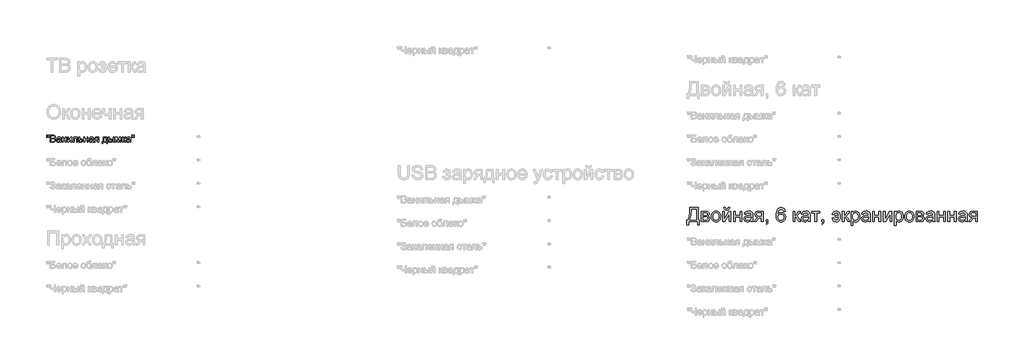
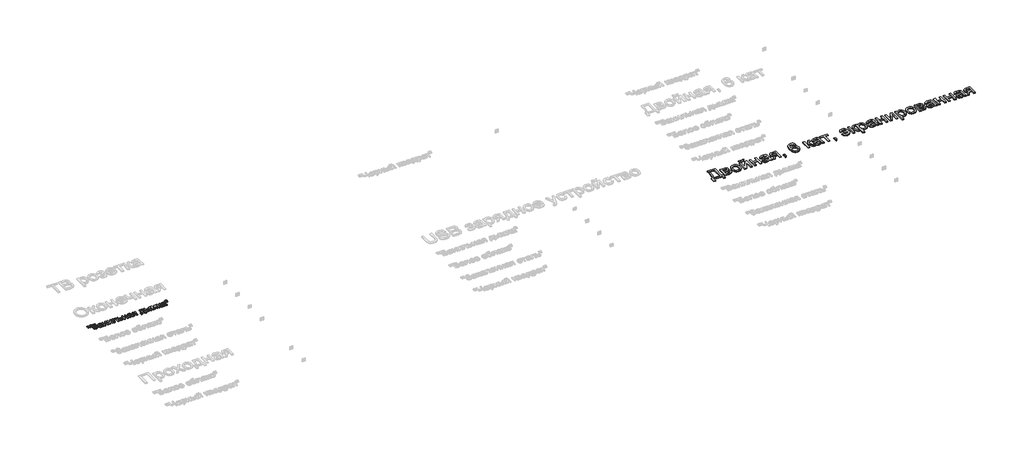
# One storey, part 148 of 168: 2 proxies.
"""IFC4 building model written with IfcOpenShell, lengths in millimetres."""

from ifc_helpers import new_model, si_unit, origin, origin_with_axes, place, context, project, spatial, polyline, outline, extrude, element, save

model = new_model("IFC4")

# Units and contexts
model_context = context("Model", 3, world=origin())
ifc_project = project(units=[si_unit("LENGTHUNIT", "METRE", prefix="MILLI")], contexts=[model_context])

# Site, building, storey
site = spatial("IfcSite", under=ifc_project)
building = spatial("IfcBuilding", under=site)
storey = spatial("IfcBuildingStorey", under=building, Name="Этаж 01", Elevation=0.0)

# Proxies
placement = place(None, origin())
element("IfcBuildingElementProxy", 1, Name="300 мм Arial 2", ObjectType="300 мм Arial 2", at=placement, inside=storey, context=model_context, shape_type="SweptSolid", body=[
    extrude(outline(polyline([(77327.3478389, -16547.0367511), (77506.2856413, -16547.0367511), (77506.2856413, -16810.7345653), (77534.5389786, -16810.7345653), (77534.5389786, -16919.0390246), (77496.8678623, -16919.0390246), (77496.8678623, -16848.4056816), (77303.8033912, -16848.4056816), (77303.8033912, -16919.0390246), (77266.1322749, -16919.0390246), (77266.1322749, -16810.7345653), (77289.6767226, -16810.7345653), (77306.157836, -16776.5629264), (77317.9300598, -16728.4945452), (77324.9933941, -16666.5294217), (77327.3478389, -16590.6675557), (77327.3478389, -16547.0367511)]), holes=[polyline([(77468.614525, -16584.7078674), (77365.0189552, -16584.7078674), (77365.0189552, -16599.8646056), (77357.3670097, -16703.0922935), (77346.0362442, -16762.744359), (77327.3478389, -16810.7345653), (77468.614525, -16810.7345653), (77468.614525, -16584.7078674)])]), origin_with_axes(), (0.0, 0.0, 1.0), 20.0),
    extrude(outline(polyline([(77576.9189844, -16627.0878733), (77659.9131625, -16627.0878733), (77686.5938042, -16628.3478691), (77705.4201653, -16632.1278566), (77719.2709224, -16639.2647673), (77731.0247522, -16650.5955328), (77739.0537767, -16665.3567978), (77741.7301183, -16682.7852073), (77740.1114375, -16696.8291025), (77735.2553951, -16708.9416172), (77727.1435971, -16719.1779337), (77715.7576494, -16727.5932344), (77729.700377, -16735.4199238), (77741.0679307, -16748.0106851), (77748.6279057, -16764.3722368), (77751.1478973, -16783.5112976), (77744.7651447, -16812.2244873), (77729.5900124, -16832.439603), (77705.5673181, -16844.4141619), (77672.6418796, -16848.4056816), (77576.9189844, -16848.4056816), (77576.9189844, -16627.0878733)]), holes=[polyline([(77614.5901007, -16711.847885), (77651.8197586, -16711.847885), (77682.5379052, -16709.9348986), (77697.4739142, -16702.2829531), (77702.41273, -16695.9553828), (77704.0590019, -16688.4505901), (77701.1711283, -16677.2117951), (77692.5075073, -16669.9829139), (77676.8541284, -16666.0649707), (77652.996981, -16664.7589896), (77614.5901007, -16664.7589896), (77614.5901007, -16711.847885)]), polyline([(77614.5901007, -16810.7345653), (77660.7960793, -16810.7345653), (77685.9776019, -16809.033111), (77701.7781336, -16803.9287484), (77710.2578136, -16794.648925), (77713.476781, -16780.4210889), (77711.8672973, -16770.9941127), (77707.0388461, -16762.2845065), (77699.6260239, -16755.4694925), (77690.2634271, -16751.7262932), (77657.1172594, -16749.5190013), (77614.5901007, -16749.5190013), (77614.5901007, -16810.7345653)])]), origin_with_axes(), (0.0, 0.0, 1.0), 20.0),
    extrude(outline(polyline([(77788.8190136, -16737.7467774), (77790.8561602, -16709.0841715), (77796.9675998, -16684.385494), (77807.1533326, -16663.6507451), (77821.4133584, -16646.8799246), (77835.7699533, -16636.160763), (77851.6164702, -16628.504219), (77868.9529092, -16623.9102925), (77887.7792703, -16622.3789837), (77908.5623038, -16624.2436856), (77927.354176, -16629.8377912), (77944.1548868, -16639.1613005), (77958.9644364, -16652.2142135), (77971.0516592, -16668.5550719), (77979.6853898, -16687.7424172), (77984.8656281, -16709.7762495), (77986.5923742, -16734.6565687), (77983.5389537, -16772.7139611), (77974.378692, -16801.6846682), (77959.3783037, -16823.3805088), (77938.8045031, -16839.6133019), (77914.3679415, -16849.7392538), (77887.7792703, -16853.1145711), (77866.6927342, -16851.256767), (77847.7261181, -16845.6833548), (77830.879422, -16836.3943344), (77816.1526459, -16823.3897059), (77804.1941818, -16806.8901984), (77795.6524217, -16787.1165412), (77790.5273657, -16764.0687342), (77788.8190136, -16737.7467774)]), holes=[polyline([(77826.4901299, -16737.673201), (77830.8495316, -16771.7666649), (77843.9277365, -16796.0560737), (77863.6094233, -16810.5966095), (77887.7792703, -16815.4434548), (77911.8387528, -16810.5690184), (77931.4836514, -16795.9457091), (77944.5618563, -16771.3344036), (77948.9212579, -16736.4959786), (77944.5342651, -16703.3957961), (77931.3732868, -16679.4374812), (77911.7007971, -16664.8969453), (77887.7792703, -16660.0501), (77863.6094233, -16664.8785512), (77843.9277365, -16679.3639048), (77830.8495316, -16703.5981312), (77826.4901299, -16737.673201)])]), origin_with_axes(), (0.0, 0.0, 1.0), 20.0),
    extrude(outline(polyline([(78028.9723801, -16627.0878733), (78066.6434964, -16627.0878733), (78066.6434964, -16795.8721327), (78159.2026064, -16627.0878733), (78207.9101825, -16627.0878733), (78207.9101825, -16848.4056816), (78170.2390662, -16848.4056816), (78170.2390662, -16680.6514918), (78078.2685674, -16848.4056816), (78028.9723801, -16848.4056816), (78028.9723801, -16627.0878733)])), origin_with_axes(), (0.0, 0.0, 1.0), 20.0),
    extrude(outline(polyline([(78151.4035081, -16547.0367511), (78179.6568453, -16547.0367511), (78173.5775953, -16571.160613), (78161.3731102, -16588.9385104), (78143.5952127, -16599.8921968), (78120.7957261, -16603.5434256), (78096.0556619, -16599.9197879), (78076.8706159, -16589.048875), (78063.7556227, -16571.2985687), (78057.2257173, -16547.0367511), (78085.4790545, -16547.0367511), (78089.4521801, -16559.4435714), (78096.074056, -16568.2635422), (78105.3814705, -16573.5334518), (78117.4112117, -16575.2900883), (78130.9860574, -16573.5886341), (78140.8085066, -16568.4842714), (78147.4303825, -16559.7194829), (78151.4035081, -16547.0367511)])), origin_with_axes(), (0.0, 0.0, 1.0), 20.0),
    extrude(outline(polyline([(78264.416857, -16627.0878733), (78302.0879733, -16627.0878733), (78302.0879733, -16711.847885), (78400.9746536, -16711.847885), (78400.9746536, -16627.0878733), (78438.6457699, -16627.0878733), (78438.6457699, -16848.4056816), (78400.9746536, -16848.4056816), (78400.9746536, -16749.5190013), (78302.0879733, -16749.5190013), (78302.0879733, -16848.4056816), (78264.416857, -16848.4056816), (78264.416857, -16627.0878733)])), origin_with_axes(), (0.0, 0.0, 1.0), 20.0),
    extrude(outline(polyline([(78636.4191305, -16820.1523443), (78618.4205039, -16835.584994), (78599.8884484, -16845.6833548), (78580.3998997, -16851.256767), (78559.5317935, -16853.1145711), (78528.0502918, -16848.6448049), (78504.8277408, -16835.2355061), (78490.5079342, -16814.8732377), (78485.7346653, -16789.5445623), (78487.5372871, -16773.9279716), (78492.9451524, -16759.7461207), (78501.2868766, -16747.6060149), (78511.8910752, -16738.1146594), (78538.2682142, -16725.7538244), (78570.862559, -16720.0884417), (78609.3798039, -16714.1287533), (78636.1984013, -16707.1389954), (78636.4191305, -16698.7512859), (78633.8255625, -16681.9390788), (78626.0448583, -16670.9394071), (78608.6440399, -16662.7724268), (78584.4006164, -16660.0501), (78561.9598147, -16661.8619189), (78546.2880417, -16667.2973753), (78535.6010697, -16677.3497509), (78528.1146711, -16693.0123268), (78490.4435548, -16688.3034373), (78496.9826573, -16667.7020455), (78506.7407272, -16651.5152378), (78520.6282725, -16639.1360086), (78539.5558012, -16629.9573528), (78562.7047757, -16624.273576), (78589.2566587, -16622.3789837), (78614.7232899, -16624.0528468), (78634.9108143, -16629.074436), (78650.1319319, -16636.625214), (78660.6993422, -16645.8866432), (78667.7074942, -16657.3369703), (78672.2508369, -16671.4544419), (78674.0902468, -16704.4166687), (78674.0902468, -16751.2848348), (78676.0032332, -16816.7310418), (78683.5080259, -16848.4056816), (78645.8369096, -16848.4056816), (78636.4191305, -16820.1523443)]), holes=[polyline([(78636.4191305, -16744.8101117), (78575.6450249, -16756.3616064), (78543.2346211, -16762.4684475), (78528.5561295, -16772.4012614), (78523.4057816, -16786.895812), (78526.2108818, -16798.0978187), (78534.6261825, -16807.2764745), (78548.4677425, -16813.4017097), (78567.551621, -16815.4434548), (78587.7851308, -16813.1901776), (78605.6641957, -16806.4303459), (78620.1587463, -16796.4699409), (78630.238713, -16784.6149436), (78634.7084792, -16772.4012614), (78636.1984013, -16755.4786896), (78636.4191305, -16744.8101117)])]), origin_with_axes(), (0.0, 0.0, 1.0), 20.0),
    extrude(outline(polyline([(78895.4080551, -16627.0878733), (78895.4080551, -16848.4056816), (78857.7369388, -16848.4056816), (78857.7369388, -16763.6456699), (78837.2091235, -16763.6456699), (78809.2500919, -16768.4281358), (78798.0848733, -16778.8575904), (78782.9833174, -16800.5810222), (78752.9641466, -16848.4056816), (78709.4069184, -16848.4056816), (78747.2251875, -16787.9258816), (78763.9270301, -16766.2208438), (78779.3044975, -16756.5823356), (78753.5527578, -16748.6912668), (78735.4529636, -16733.7000755), (78724.7475976, -16713.7608713), (78721.1791422, -16691.025764), (78726.0535786, -16665.2372362), (78740.676888, -16644.8197854), (78764.5340353, -16631.5208513), (78797.109986, -16627.0878733), (78895.4080551, -16627.0878733)]), holes=[polyline([(78857.7369388, -16664.7589896), (78808.0728695, -16664.7589896), (78782.4222974, -16666.9386904), (78767.8633674, -16673.4777929), (78761.1035357, -16682.9415572), (78758.8502585, -16693.8952436), (78762.1703935, -16708.2518385), (78772.1307985, -16718.2122435), (78790.5340954, -16724.033976), (78819.1829057, -16725.9745536), (78857.7369388, -16725.9745536), (78857.7369388, -16664.7589896)])]), origin_with_axes(), (0.0, 0.0, 1.0), 20.0),
    extrude(outline(polyline([(78961.3325087, -16848.4056816), (78961.3325087, -16810.7345653), (78999.003625, -16810.7345653), (78999.003625, -16848.4056816), (78997.3113678, -16869.9543694), (78992.2345963, -16886.9229265), (78983.4790048, -16899.936752), (78970.7502877, -16909.6212456), (78961.3325087, -16895.494577), (78969.499489, -16888.6703659), (78975.1648717, -16879.2341928), (78980.0944904, -16848.4056816), (78961.3325087, -16848.4056816)])), origin_with_axes(), (0.0, 0.0, 1.0), 20.0),
    extrude(outline(polyline([(79371.0058985, -16627.0878733), (79333.3347822, -16631.7967628), (79327.2647293, -16613.1267516), (79319.0609608, -16600.3796404), (79301.9728421, -16588.6258107), (79281.3162681, -16584.7078674), (79263.8050851, -16586.9887358), (79247.3239717, -16593.8313409), (79233.169712, -16608.2431181), (79221.6090203, -16628.0811547), (79213.8007249, -16656.1413538), (79210.9036542, -16695.2196188), (79226.0144071, -16677.5888742), (79244.1233984, -16665.1636598), (79264.2189523, -16657.7968228), (79285.2893936, -16655.3412105), (79303.3891878, -16657.0196721), (79320.0910304, -16662.0550569), (79335.3949214, -16670.4473649), (79349.3008608, -16682.1965961), (79360.856954, -16696.6037748), (79369.1113062, -16712.969925), (79374.0639176, -16731.2950469), (79375.714788, -16751.5791404), (79372.6061852, -16778.5540877), (79363.2803766, -16803.5608664), (79348.5099145, -16824.7692634), (79329.067351, -16840.3490659), (79305.835603, -16849.9231948), (79279.6975873, -16853.1145711), (79257.2406907, -16850.9992496), (79236.9588965, -16844.6532852), (79218.8522046, -16834.0766779), (79202.9206149, -16819.2694276), (79189.9320812, -16799.6061349), (79180.6545571, -16774.4614005), (79175.0880427, -16743.8352244), (79173.2325379, -16707.7276066), (79175.2926771, -16667.2467916), (79181.4730946, -16632.6980737), (79191.7737904, -16604.081453), (79206.1947647, -16581.3969295), (79221.8251509, -16566.3643514), (79239.9479377, -16555.6267957), (79260.563125, -16549.1842623), (79283.6707128, -16547.0367511), (79316.7249101, -16552.352646), (79343.1940197, -16568.3003304), (79361.7352722, -16593.6290058), (79371.0058985, -16627.0878733)]), holes=[polyline([(79210.9036542, -16750.9905292), (79213.083355, -16767.6831748), (79219.6224575, -16783.6216622), (79229.7760005, -16797.3252665), (79242.7990232, -16807.3132627), (79258.5167814, -16813.4109068), (79276.7545313, -16815.4434548), (79301.6141572, -16811.231206), (79321.1578881, -16798.5944594), (79333.8222258, -16778.7288317), (79338.0436717, -16752.8299392), (79333.8774081, -16727.9703134), (79321.3786173, -16709.0151936), (79301.5037926, -16697.0130435), (79275.2094269, -16693.0123268), (79250.3865893, -16697.0130435), (79229.6288477, -16709.0151936), (79215.5849526, -16727.5104609), (79210.9036542, -16750.9905292)])]), origin_with_axes(), (0.0, 0.0, 1.0), 20.0),
    extrude(outline(polyline([(79535.8170323, -16627.0878733), (79573.4881486, -16627.0878733), (79573.4881486, -16721.265664), (79588.8104337, -16719.5734069), (79598.7248535, -16714.4966353), (79607.4988391, -16701.2528835), (79619.3998216, -16675.0596854), (79636.5799108, -16641.0306009), (79651.736649, -16629.9573528), (79679.2910105, -16627.0878733), (79686.5014976, -16627.0878733), (79686.5014976, -16664.9797188), (79676.3479545, -16664.7589896), (79657.9538547, -16668.7321151), (79645.0044085, -16693.5273616), (79629.8108821, -16720.345959), (79608.5105146, -16733.4793463), (79620.4482853, -16738.7814455), (79632.2756915, -16748.1394438), (79655.59941, -16779.0231373), (79695.9192766, -16848.4056816), (79653.0978124, -16848.4056816), (79613.5872861, -16780.4946653), (79593.7216584, -16751.7630814), (79584.432638, -16746.5483542), (79573.4881486, -16744.8101117), (79573.4881486, -16848.4056816), (79535.8170323, -16848.4056816), (79535.8170323, -16627.0878733)])), origin_with_axes(), (0.0, 0.0, 1.0), 20.0),
    extrude(outline(polyline([(79860.7304105, -16820.1523443), (79842.7317839, -16835.584994), (79824.1997284, -16845.6833548), (79804.7111797, -16851.256767), (79783.8430735, -16853.1145711), (79752.3615717, -16848.6448049), (79729.1390208, -16835.2355061), (79714.8192141, -16814.8732377), (79710.0459452, -16789.5445623), (79711.848567, -16773.9279716), (79717.2564324, -16759.7461207), (79725.5981566, -16747.6060149), (79736.2023551, -16738.1146594), (79762.5794942, -16725.7538244), (79795.1738389, -16720.0884417), (79833.6910838, -16714.1287533), (79860.5096813, -16707.1389954), (79860.7304105, -16698.7512859), (79858.1368424, -16681.9390788), (79850.3561382, -16670.9394071), (79832.9553198, -16662.7724268), (79808.7118964, -16660.0501), (79786.2710946, -16661.8619189), (79770.5993217, -16667.2973753), (79759.9123497, -16677.3497509), (79752.4259511, -16693.0123268), (79714.7548348, -16688.3034373), (79721.2939373, -16667.7020455), (79731.0520072, -16651.5152378), (79744.9395525, -16639.1360086), (79763.8670811, -16629.9573528), (79787.0160557, -16624.273576), (79813.5679387, -16622.3789837), (79839.0345698, -16624.0528468), (79859.2220943, -16629.074436), (79874.4432118, -16636.625214), (79885.0106222, -16645.8866432), (79892.0187742, -16657.3369703), (79896.5621168, -16671.4544419), (79898.4015268, -16704.4166687), (79898.4015268, -16751.2848348), (79900.3145132, -16816.7310418), (79907.8193059, -16848.4056816), (79870.1481895, -16848.4056816), (79860.7304105, -16820.1523443)]), holes=[polyline([(79860.7304105, -16744.8101117), (79799.9563049, -16756.3616064), (79767.5459011, -16762.4684475), (79752.8674095, -16772.4012614), (79747.7170616, -16786.895812), (79750.5221618, -16798.0978187), (79758.9374624, -16807.2764745), (79772.7790225, -16813.4017097), (79791.862901, -16815.4434548), (79812.0964107, -16813.1901776), (79829.9754757, -16806.4303459), (79844.4700263, -16796.4699409), (79854.549993, -16784.6149436), (79859.0197592, -16772.4012614), (79860.5096813, -16755.4786896), (79860.7304105, -16744.8101117)])]), origin_with_axes(), (0.0, 0.0, 1.0), 20.0),
    extrude(outline(polyline([(79931.3637535, -16627.0878733), (80110.301556, -16627.0878733), (80110.301556, -16664.7589896), (80039.6682129, -16664.7589896), (80039.6682129, -16848.4056816), (80001.9970966, -16848.4056816), (80001.9970966, -16664.7589896), (79931.3637535, -16664.7589896), (79931.3637535, -16627.0878733)])), origin_with_axes(), (0.0, 0.0, 1.0), 20.0),
    extrude(outline(polyline([(80152.6815618, -16848.4056816), (80152.6815618, -16810.7345653), (80190.3526782, -16810.7345653), (80190.3526782, -16848.4056816), (80188.660421, -16869.9543694), (80183.5836494, -16886.9229265), (80174.828058, -16899.936752), (80162.0993409, -16909.6212456), (80152.6815618, -16895.494577), (80160.8485421, -16888.6703659), (80166.5139249, -16879.2341928), (80171.4435436, -16848.4056816), (80152.6815618, -16848.4056816)])), origin_with_axes(), (0.0, 0.0, 1.0), 20.0),
    extrude(outline(polyline([(80439.9238237, -16711.847885), (80510.5571668, -16711.847885), (80504.7538283, -16690.9797788), (80493.5242304, -16674.4342861), (80477.604137, -16663.6461465), (80457.7293122, -16660.0501), (80440.5860113, -16662.4045448), (80427.1951066, -16669.4678791), (80417.5565984, -16681.240103), (80411.6704864, -16697.7212163), (80373.9993701, -16693.0123268), (80382.7825528, -16664.7313984), (80399.8614744, -16642.1342469), (80424.3716123, -16627.3177995), (80455.4484439, -16622.3789837), (80475.8038145, -16624.3011672), (80493.9013094, -16630.0677174), (80509.7409286, -16639.6786346), (80523.322672, -16653.1339185), (80534.2188768, -16669.9553228), (80542.0018803, -16689.6646007), (80546.6716824, -16712.2617522), (80548.2282831, -16737.7467774), (80547.2373009, -16762.9558911), (80543.0871322, -16785.608225), (80535.7777768, -16805.703779), (80525.3092348, -16823.2425531), (80512.0217969, -16837.3048424), (80496.2557542, -16846.9709418), (80478.0111065, -16852.2408514), (80457.2878539, -16853.1145711), (80423.8841687, -16847.6055382), (80409.8310765, -16840.7192471), (80397.5438178, -16831.0784396), (80379.0761417, -16805.5566262), (80369.2904806, -16773.063449), (80406.9615969, -16768.3545594), (80412.9120882, -16788.9559511), (80423.1851929, -16803.671231), (80437.7809111, -16812.5003988), (80456.6992427, -16815.4434548), (80477.9812161, -16811.3231765), (80494.002477, -16798.9623414), (80504.8366017, -16778.3609497), (80510.5571668, -16749.5190013), (80439.9238237, -16749.5190013), (80439.9238237, -16711.847885)])), origin_with_axes(), (0.0, 0.0, 1.0), 20.0),
    extrude(outline(polyline([(80590.6082889, -16627.0878733), (80628.2794052, -16627.0878733), (80628.2794052, -16721.265664), (80643.6016903, -16719.5734069), (80653.5161101, -16714.4966353), (80662.2900957, -16701.2528835), (80674.1910782, -16675.0596854), (80691.3711674, -16641.0306009), (80706.5279056, -16629.9573528), (80734.082267, -16627.0878733), (80741.2927541, -16627.0878733), (80741.2927541, -16664.9797188), (80731.1392111, -16664.7589896), (80712.7451113, -16668.7321151), (80699.7956651, -16693.5273616), (80684.6021387, -16720.345959), (80663.3017712, -16733.4793463), (80675.2395419, -16738.7814455), (80687.066948, -16748.1394438), (80710.3906665, -16779.0231373), (80750.7105332, -16848.4056816), (80707.889069, -16848.4056816), (80668.3785427, -16780.4946653), (80648.5129149, -16751.7630814), (80639.2238946, -16746.5483542), (80628.2794052, -16744.8101117), (80628.2794052, -16848.4056816), (80590.6082889, -16848.4056816), (80590.6082889, -16627.0878733)])), origin_with_axes(), (0.0, 0.0, 1.0), 20.0),
    extrude(outline(polyline([(80774.2549809, -16933.1656933), (80774.2549809, -16627.0878733), (80811.9260972, -16627.0878733), (80811.9260972, -16664.0232256), (80824.2133558, -16645.8038698), (80837.9721425, -16632.7900442), (80854.0117975, -16624.9817488), (80873.1416612, -16622.3789837), (80898.6174894, -16626.0210155), (80920.8927442, -16636.9471107), (80939.0293265, -16654.4950819), (80952.0891374, -16678.0027414), (80959.9802062, -16705.7594379), (80962.6105624, -16736.0545202), (80959.6399153, -16768.271786), (80950.727974, -16797.0861432), (80936.159847, -16821.0352611), (80916.2206428, -16838.6568087), (80892.9980919, -16849.5001305), (80868.5799245, -16853.1145711), (80851.2618795, -16850.695747), (80835.8016387, -16843.4392746), (80822.5670839, -16832.4855882), (80811.9260972, -16818.975122), (80811.9260972, -16933.1656933), (80774.2549809, -16933.1656933)]), holes=[polyline([(80811.9260972, -16739.512611), (80816.0003903, -16773.2841782), (80828.2232696, -16796.9022022), (80846.2586844, -16810.8081417), (80867.7705841, -16815.4434548), (80889.6319716, -16810.6425948), (80908.1272389, -16796.2400147), (80920.7363943, -16771.7574679), (80924.9394461, -16736.7167078), (80920.8375619, -16703.1290817), (80908.5319091, -16679.1799638), (80890.5240855, -16664.832566), (80869.3156884, -16660.0501), (80848.024518, -16665.1360686), (80829.3269156, -16680.3939744), (80816.2763018, -16705.3455707), (80811.9260972, -16739.512611)])]), origin_with_axes(), (0.0, 0.0, 1.0), 20.0),
    extrude(outline(polyline([(81146.2572544, -16820.1523443), (81128.2586278, -16835.584994), (81109.7265723, -16845.6833548), (81090.2380236, -16851.256767), (81069.3699174, -16853.1145711), (81037.8884157, -16848.6448049), (81014.6658647, -16835.2355061), (81000.3460581, -16814.8732377), (80995.5727892, -16789.5445623), (80997.375411, -16773.9279716), (81002.7832763, -16759.7461207), (81011.1250005, -16747.6060149), (81021.7291991, -16738.1146594), (81048.1063381, -16725.7538244), (81080.7006829, -16720.0884417), (81119.2179278, -16714.1287533), (81146.0365252, -16707.1389954), (81146.2572544, -16698.7512859), (81143.6636864, -16681.9390788), (81135.8829822, -16670.9394071), (81118.4821638, -16662.7724268), (81094.2387403, -16660.0501), (81071.7979386, -16661.8619189), (81056.1261656, -16667.2973753), (81045.4391936, -16677.3497509), (81037.952795, -16693.0123268), (81000.2816787, -16688.3034373), (81006.8207812, -16667.7020455), (81016.5788511, -16651.5152378), (81030.4663964, -16639.1360086), (81049.3939251, -16629.9573528), (81072.5428996, -16624.273576), (81099.0947826, -16622.3789837), (81124.5614138, -16624.0528468), (81144.7489382, -16629.074436), (81159.9700558, -16636.625214), (81170.5374661, -16645.8866432), (81177.5456181, -16657.3369703), (81182.0889607, -16671.4544419), (81183.9283707, -16704.4166687), (81183.9283707, -16751.2848348), (81185.8413571, -16816.7310418), (81193.3461498, -16848.4056816), (81155.6750335, -16848.4056816), (81146.2572544, -16820.1523443)]), holes=[polyline([(81146.2572544, -16744.8101117), (81085.4831488, -16756.3616064), (81053.072745, -16762.4684475), (81038.3942534, -16772.4012614), (81033.2439055, -16786.895812), (81036.0490057, -16798.0978187), (81044.4643064, -16807.2764745), (81058.3058664, -16813.4017097), (81077.3897449, -16815.4434548), (81097.6232547, -16813.1901776), (81115.5023196, -16806.4303459), (81129.9968702, -16796.4699409), (81140.0768369, -16784.6149436), (81144.5466031, -16772.4012614), (81146.0365252, -16755.4786896), (81146.2572544, -16744.8101117)])]), origin_with_axes(), (0.0, 0.0, 1.0), 20.0),
    extrude(outline(polyline([(81235.7261556, -16627.0878733), (81273.397272, -16627.0878733), (81273.397272, -16711.847885), (81372.2839523, -16711.847885), (81372.2839523, -16627.0878733), (81409.9550686, -16627.0878733), (81409.9550686, -16848.4056816), (81372.2839523, -16848.4056816), (81372.2839523, -16749.5190013), (81273.397272, -16749.5190013), (81273.397272, -16848.4056816), (81235.7261556, -16848.4056816), (81235.7261556, -16627.0878733)])), origin_with_axes(), (0.0, 0.0, 1.0), 20.0),
    extrude(outline(polyline([(81466.461743, -16627.0878733), (81504.1328593, -16627.0878733), (81504.1328593, -16795.8721327), (81596.6919693, -16627.0878733), (81645.3995455, -16627.0878733), (81645.3995455, -16848.4056816), (81607.7284292, -16848.4056816), (81607.7284292, -16680.6514918), (81515.7579304, -16848.4056816), (81466.461743, -16848.4056816), (81466.461743, -16627.0878733)])), origin_with_axes(), (0.0, 0.0, 1.0), 20.0),
    extrude(outline(polyline([(81701.9062199, -16933.1656933), (81701.9062199, -16627.0878733), (81739.5773362, -16627.0878733), (81739.5773362, -16664.0232256), (81751.8645949, -16645.8038698), (81765.6233815, -16632.7900442), (81781.6630365, -16624.9817488), (81800.7929002, -16622.3789837), (81826.2687284, -16626.0210155), (81848.5439832, -16636.9471107), (81866.6805656, -16654.4950819), (81879.7403764, -16678.0027414), (81887.6314452, -16705.7594379), (81890.2618015, -16736.0545202), (81887.2911544, -16768.271786), (81878.379213, -16797.0861432), (81863.811086, -16821.0352611), (81843.8718819, -16838.6568087), (81820.6493309, -16849.5001305), (81796.2311635, -16853.1145711), (81778.9131186, -16850.695747), (81763.4528777, -16843.4392746), (81750.218323, -16832.4855882), (81739.5773362, -16818.975122), (81739.5773362, -16933.1656933), (81701.9062199, -16933.1656933)]), holes=[polyline([(81739.5773362, -16739.512611), (81743.6516293, -16773.2841782), (81755.8745086, -16796.9022022), (81773.9099234, -16810.8081417), (81795.4218231, -16815.4434548), (81817.2832107, -16810.6425948), (81835.778478, -16796.2400147), (81848.3876334, -16771.7574679), (81852.5906852, -16736.7167078), (81848.4888009, -16703.1290817), (81836.1831482, -16679.1799638), (81818.1753245, -16664.832566), (81796.9669275, -16660.0501), (81775.675757, -16665.1360686), (81756.9781546, -16680.3939744), (81743.9275408, -16705.3455707), (81739.5773362, -16739.512611)])]), origin_with_axes(), (0.0, 0.0, 1.0), 20.0),
    extrude(outline(polyline([(81923.2240282, -16737.7467774), (81925.2611748, -16709.0841715), (81931.3726144, -16684.385494), (81941.5583472, -16663.6507451), (81955.818373, -16646.8799246), (81970.1749679, -16636.160763), (81986.0214848, -16628.504219), (82003.3579238, -16623.9102925), (82022.1842849, -16622.3789837), (82042.9673184, -16624.2436856), (82061.7591906, -16629.8377912), (82078.5599014, -16639.1613005), (82093.369451, -16652.2142135), (82105.4566738, -16668.5550719), (82114.0904044, -16687.7424172), (82119.2706427, -16709.7762495), (82120.9973888, -16734.6565687), (82117.9439683, -16772.7139611), (82108.7837066, -16801.6846682), (82093.7833182, -16823.3805088), (82073.2095177, -16839.6133019), (82048.7729561, -16849.7392538), (82022.1842849, -16853.1145711), (82001.0977488, -16851.256767), (81982.1311327, -16845.6833548), (81965.2844366, -16836.3943344), (81950.5576605, -16823.3897059), (81938.5991964, -16806.8901984), (81930.0574363, -16787.1165412), (81924.9323802, -16764.0687342), (81923.2240282, -16737.7467774)]), holes=[polyline([(81960.8951445, -16737.673201), (81965.2545462, -16771.7666649), (81978.3327511, -16796.0560737), (81998.0144379, -16810.5966095), (82022.1842849, -16815.4434548), (82046.2437674, -16810.5690184), (82065.888666, -16795.9457091), (82078.9668709, -16771.3344036), (82083.3262725, -16736.4959786), (82078.9392797, -16703.3957961), (82065.7783014, -16679.4374812), (82046.1058117, -16664.8969453), (82022.1842849, -16660.0501), (81998.0144379, -16664.8785512), (81978.3327511, -16679.3639048), (81965.2545462, -16703.5981312), (81960.8951445, -16737.673201)])]), origin_with_axes(), (0.0, 0.0, 1.0), 20.0),
    extrude(outline(polyline([(82163.3773947, -16627.0878733), (82246.3715728, -16627.0878733), (82273.0522145, -16628.3478691), (82291.8785756, -16632.1278566), (82305.7293327, -16639.2647673), (82317.4831625, -16650.5955328), (82325.512187, -16665.3567978), (82328.1885285, -16682.7852073), (82326.5698477, -16696.8291025), (82321.7138054, -16708.9416172), (82313.6020074, -16719.1779337), (82302.2160597, -16727.5932344), (82316.1587873, -16735.4199238), (82327.5263409, -16748.0106851), (82335.0863159, -16764.3722368), (82337.6063076, -16783.5112976), (82331.223555, -16812.2244873), (82316.0484227, -16832.439603), (82292.0257284, -16844.4141619), (82259.1002898, -16848.4056816), (82163.3773947, -16848.4056816), (82163.3773947, -16627.0878733)]), holes=[polyline([(82201.048511, -16810.7345653), (82247.2544896, -16810.7345653), (82272.4360122, -16809.033111), (82288.2365438, -16803.9287484), (82296.7162238, -16794.648925), (82299.9351913, -16780.4210889), (82298.3257076, -16770.9941127), (82293.4972564, -16762.2845065), (82286.0844342, -16755.4694925), (82276.7218374, -16751.7262932), (82243.5756696, -16749.5190013), (82201.048511, -16749.5190013), (82201.048511, -16810.7345653)]), polyline([(82201.048511, -16711.847885), (82238.2781689, -16711.847885), (82268.9963155, -16709.9348986), (82283.9323245, -16702.2829531), (82288.8711403, -16695.9553828), (82290.5174122, -16688.4505901), (82287.6295386, -16677.2117951), (82278.9659176, -16669.9829139), (82263.3125387, -16666.0649707), (82239.4553913, -16664.7589896), (82201.048511, -16664.7589896), (82201.048511, -16711.847885)])]), origin_with_axes(), (0.0, 0.0, 1.0), 20.0),
    extrude(outline(polyline([(82525.9618891, -16820.1523443), (82507.9632625, -16835.584994), (82489.431207, -16845.6833548), (82469.9426583, -16851.256767), (82449.0745521, -16853.1145711), (82417.5930504, -16848.6448049), (82394.3704995, -16835.2355061), (82380.0506928, -16814.8732377), (82375.2774239, -16789.5445623), (82377.0800457, -16773.9279716), (82382.487911, -16759.7461207), (82390.8296353, -16747.6060149), (82401.4338338, -16738.1146594), (82427.8109728, -16725.7538244), (82460.4053176, -16720.0884417), (82498.9225625, -16714.1287533), (82525.7411599, -16707.1389954), (82525.9618891, -16698.7512859), (82523.3683211, -16681.9390788), (82515.5876169, -16670.9394071), (82498.1867985, -16662.7724268), (82473.943375, -16660.0501), (82451.5025733, -16661.8619189), (82435.8308003, -16667.2973753), (82425.1438284, -16677.3497509), (82417.6574297, -16693.0123268), (82379.9863134, -16688.3034373), (82386.5254159, -16667.7020455), (82396.2834858, -16651.5152378), (82410.1710311, -16639.1360086), (82429.0985598, -16629.9573528), (82452.2475343, -16624.273576), (82478.7994173, -16622.3789837), (82504.2660485, -16624.0528468), (82524.4535729, -16629.074436), (82539.6746905, -16636.625214), (82550.2421008, -16645.8866432), (82557.2502528, -16657.3369703), (82561.7935955, -16671.4544419), (82563.6330054, -16704.4166687), (82563.6330054, -16751.2848348), (82565.5459918, -16816.7310418), (82573.0507845, -16848.4056816), (82535.3796682, -16848.4056816), (82525.9618891, -16820.1523443)]), holes=[polyline([(82525.9618891, -16744.8101117), (82465.1877835, -16756.3616064), (82432.7773798, -16762.4684475), (82418.0988881, -16772.4012614), (82412.9485402, -16786.895812), (82415.7536404, -16798.0978187), (82424.1689411, -16807.2764745), (82438.0105011, -16813.4017097), (82457.0943796, -16815.4434548), (82477.3278894, -16813.1901776), (82495.2069543, -16806.4303459), (82509.7015049, -16796.4699409), (82519.7814716, -16784.6149436), (82524.2512379, -16772.4012614), (82525.7411599, -16755.4786896), (82525.9618891, -16744.8101117)])]), origin_with_axes(), (0.0, 0.0, 1.0), 20.0),
    extrude(outline(polyline([(82615.4307904, -16627.0878733), (82653.1019067, -16627.0878733), (82653.1019067, -16711.847885), (82751.988587, -16711.847885), (82751.988587, -16627.0878733), (82789.6597033, -16627.0878733), (82789.6597033, -16848.4056816), (82751.988587, -16848.4056816), (82751.988587, -16749.5190013), (82653.1019067, -16749.5190013), (82653.1019067, -16848.4056816), (82615.4307904, -16848.4056816), (82615.4307904, -16627.0878733)])), origin_with_axes(), (0.0, 0.0, 1.0), 20.0),
    extrude(outline(polyline([(82846.1663777, -16627.0878733), (82883.837494, -16627.0878733), (82883.837494, -16711.847885), (82982.7241743, -16711.847885), (82982.7241743, -16627.0878733), (83020.3952906, -16627.0878733), (83020.3952906, -16848.4056816), (82982.7241743, -16848.4056816), (82982.7241743, -16749.5190013), (82883.837494, -16749.5190013), (82883.837494, -16848.4056816), (82846.1663777, -16848.4056816), (82846.1663777, -16627.0878733)])), origin_with_axes(), (0.0, 0.0, 1.0), 20.0),
    extrude(outline(polyline([(83218.1686513, -16820.1523443), (83200.1700246, -16835.584994), (83181.6379691, -16845.6833548), (83162.1494204, -16851.256767), (83141.2813143, -16853.1145711), (83109.7998125, -16848.6448049), (83086.5772616, -16835.2355061), (83072.2574549, -16814.8732377), (83067.484186, -16789.5445623), (83069.2868078, -16773.9279716), (83074.6946731, -16759.7461207), (83083.0363974, -16747.6060149), (83093.6405959, -16738.1146594), (83120.0177349, -16725.7538244), (83152.6120797, -16720.0884417), (83191.1293246, -16714.1287533), (83217.9479221, -16707.1389954), (83218.1686513, -16698.7512859), (83215.5750832, -16681.9390788), (83207.794379, -16670.9394071), (83190.3935606, -16662.7724268), (83166.1501371, -16660.0501), (83143.7093354, -16661.8619189), (83128.0375624, -16667.2973753), (83117.3505905, -16677.3497509), (83109.8641919, -16693.0123268), (83072.1930756, -16688.3034373), (83078.732178, -16667.7020455), (83088.490248, -16651.5152378), (83102.3777933, -16639.1360086), (83121.3053219, -16629.9573528), (83144.4542965, -16624.273576), (83171.0061795, -16622.3789837), (83196.4728106, -16624.0528468), (83216.6603351, -16629.074436), (83231.8814526, -16636.625214), (83242.4488629, -16645.8866432), (83249.4570149, -16657.3369703), (83254.0003576, -16671.4544419), (83255.8397676, -16704.4166687), (83255.8397676, -16751.2848348), (83257.7527539, -16816.7310418), (83265.2575466, -16848.4056816), (83227.5864303, -16848.4056816), (83218.1686513, -16820.1523443)]), holes=[polyline([(83218.1686513, -16744.8101117), (83157.3945457, -16756.3616064), (83124.9841419, -16762.4684475), (83110.3056503, -16772.4012614), (83105.1553023, -16786.895812), (83107.9604025, -16798.0978187), (83116.3757032, -16807.2764745), (83130.2172633, -16813.4017097), (83149.3011418, -16815.4434548), (83169.5346515, -16813.1901776), (83187.4137165, -16806.4303459), (83201.9082671, -16796.4699409), (83211.9882337, -16784.6149436), (83216.458, -16772.4012614), (83217.9479221, -16755.4786896), (83218.1686513, -16744.8101117)])]), origin_with_axes(), (0.0, 0.0, 1.0), 20.0),
    extrude(outline(polyline([(83477.1575759, -16627.0878733), (83477.1575759, -16848.4056816), (83439.4864596, -16848.4056816), (83439.4864596, -16763.6456699), (83418.9586442, -16763.6456699), (83390.9996126, -16768.4281358), (83379.834394, -16778.8575904), (83364.7328381, -16800.5810222), (83334.7136673, -16848.4056816), (83291.1564391, -16848.4056816), (83328.9747082, -16787.9258816), (83345.6765508, -16766.2208438), (83361.0540182, -16756.5823356), (83335.3022785, -16748.6912668), (83317.2024844, -16733.7000755), (83306.4971183, -16713.7608713), (83302.9286629, -16691.025764), (83307.8030994, -16665.2372362), (83322.4264087, -16644.8197854), (83346.2835561, -16631.5208513), (83378.8595067, -16627.0878733), (83477.1575759, -16627.0878733)]), holes=[polyline([(83439.4864596, -16664.7589896), (83389.8223902, -16664.7589896), (83364.1718181, -16666.9386904), (83349.6128881, -16673.4777929), (83342.8530565, -16682.9415572), (83340.5997792, -16693.8952436), (83343.9199143, -16708.2518385), (83353.8803193, -16718.2122435), (83372.2836161, -16724.033976), (83400.9324265, -16725.9745536), (83439.4864596, -16725.9745536), (83439.4864596, -16664.7589896)])]), origin_with_axes(), (0.0, 0.0, 1.0), 20.0),
])
element("IfcBuildingElementProxy", 2, Name="150", ObjectType="150", at=placement, inside=storey, context=model_context, shape_type="SweptSolid", body=[
    extrude(outline(polyline([(63580.1485789, -15051.873446), (63575.550054, -15022.7739802), (63575.550054, -14997.7212163), (63594.3856121, -14997.7212163), (63594.3856121, -15022.7739802), (63590.2653338, -15051.873446), (63580.1485789, -15051.873446)])), origin_with_axes(), (0.0, 0.0, 1.0), 20.0),
    extrude(outline(polyline([(63617.7093306, -15051.873446), (63613.2211703, -15022.7739802), (63613.2211703, -14997.7212163), (63632.0567284, -14997.7212163), (63632.0567284, -15022.7739802), (63627.6421445, -15051.873446), (63617.7093306, -15051.873446)])), origin_with_axes(), (0.0, 0.0, 1.0), 20.0),
    extrude(outline(polyline([(63657.9556209, -15148.4056816), (63657.9556209, -14997.7212163), (63715.4555767, -14997.7212163), (63743.6169435, -15002.1541944), (63753.0807078, -15007.7781904), (63760.2452096, -15015.7842223), (63766.2600803, -15035.0612389), (63761.2017028, -15052.6643923), (63745.9162059, -15066.0001146), (63756.5893823, -15071.5735269), (63764.4758526, -15080.0532069), (63769.3456905, -15090.8781346), (63770.9689698, -15103.48729), (63766.5359918, -15123.7391938), (63755.5547142, -15138.160168), (63739.1655713, -15145.8121135), (63715.0141183, -15148.4056816), (63657.9556209, -15148.4056816)]), holes=[polyline([(63676.791179, -15058.9367803), (63711.1881456, -15058.9367803), (63731.2745025, -15057.3180996), (63743.3594261, -15050.3467358), (63747.4245221, -15038.0778712), (63743.6353376, -15025.7906126), (63732.7828187, -15018.5249432), (63708.5761834, -15016.5567745), (63676.791179, -15016.5567745), (63676.791179, -15058.9367803)]), polyline([(63676.791179, -15129.5701234), (63715.4187885, -15129.5701234), (63729.3983043, -15128.8343594), (63741.2257105, -15124.7324752), (63749.061597, -15116.3631598), (63752.1334117, -15103.671231), (63748.5281681, -15089.0295275), (63736.8479148, -15080.2923302), (63713.5793786, -15077.7723385), (63676.791179, -15077.7723385), (63676.791179, -15129.5701234)])]), origin_with_axes(), (0.0, 0.0, 1.0), 20.0),
    extrude(outline(polyline([(63865.1467606, -15134.279013), (63846.8814195, -15147.0445182), (63826.7030921, -15150.7601263), (63810.9623412, -15148.5252432), (63799.3510657, -15141.8205939), (63792.1911624, -15131.6394596), (63789.804528, -15118.975122), (63793.4097715, -15104.0759012), (63802.8827329, -15093.2601705), (63816.0713024, -15087.079753), (63832.3684748, -15084.2470616), (63865.036396, -15077.7723385), (63865.1467606, -15073.5784838), (63863.8499765, -15065.1723802), (63859.9596244, -15059.6725443), (63851.2592153, -15055.5890542), (63839.1375035, -15054.2278908), (63820.0812162, -15057.8515285), (63810.9945309, -15070.7090042), (63792.1589727, -15068.3545594), (63800.3075589, -15049.9604597), (63816.7150959, -15039.1815172), (63841.5655247, -15035.3923327), (63864.3926025, -15038.7400588), (63877.2868664, -15047.1461624), (63883.0626137, -15059.9300617), (63883.9823187, -15076.4111751), (63883.9823187, -15099.8452582), (63884.9388119, -15132.5683617), (63888.6912083, -15148.4056816), (63869.8556501, -15148.4056816), (63865.1467606, -15134.279013)]), holes=[polyline([(63865.1467606, -15096.6078966), (63834.7597078, -15102.383644), (63818.5545059, -15105.4370645), (63811.2152601, -15110.4034715), (63808.6400861, -15117.6507468), (63814.2502865, -15127.841078), (63830.7130058, -15131.9245682), (63849.7692932, -15127.4180137), (63862.0565518, -15116.5103126), (63865.036396, -15101.9421856), (63865.1467606, -15096.6078966)])]), origin_with_axes(), (0.0, 0.0, 1.0), 20.0),
    extrude(outline(polyline([(63909.8812112, -15037.7467774), (63928.7167693, -15037.7467774), (63928.7167693, -15080.1267833), (63978.1601095, -15080.1267833), (63978.1601095, -15037.7467774), (63996.9956676, -15037.7467774), (63996.9956676, -15148.4056816), (63978.1601095, -15148.4056816), (63978.1601095, -15098.9623414), (63928.7167693, -15098.9623414), (63928.7167693, -15148.4056816), (63909.8812112, -15148.4056816), (63909.8812112, -15037.7467774)])), origin_with_axes(), (0.0, 0.0, 1.0), 20.0),
    extrude(outline(polyline([(64025.2490049, -15037.7467774), (64044.084563, -15037.7467774), (64044.084563, -15122.1389071), (64090.364118, -15037.7467774), (64114.7179061, -15037.7467774), (64114.7179061, -15148.4056816), (64095.8823479, -15148.4056816), (64095.8823479, -15064.5285867), (64049.8970985, -15148.4056816), (64025.2490049, -15148.4056816), (64025.2490049, -15037.7467774)])), origin_with_axes(), (0.0, 0.0, 1.0), 20.0),
    extrude(outline(polyline([(64152.3890224, -15037.7467774), (64237.1490341, -15037.7467774), (64237.1490341, -15148.295317), (64218.3134759, -15148.295317), (64218.3134759, -15056.5823356), (64171.2245806, -15056.5823356), (64171.2245806, -15109.3734019), (64169.9553877, -15133.72719), (64162.9840239, -15144.0094917), (64146.5029105, -15148.4056816), (64131.1990195, -15147.4491884), (64131.1990195, -15129.5701234), (64139.6235172, -15129.5701234), (64148.1399854, -15128.4112951), (64151.5428938, -15124.7324752), (64152.3890224, -15108.3065441), (64152.3890224, -15037.7467774)])), origin_with_axes(), (0.0, 0.0, 1.0), 20.0),
    extrude(outline(polyline([(64265.4023713, -15037.7467774), (64284.2379295, -15037.7467774), (64284.2379295, -15077.7723385), (64305.9429672, -15077.7723385), (64324.7601312, -15080.1313818), (64338.6844648, -15087.2085117), (64347.2929034, -15098.433511), (64350.162383, -15113.2361628), (64347.7205663, -15126.7144394), (64340.395116, -15138.0865916), (64327.6985887, -15145.8259091), (64309.1435405, -15148.4056816), (64265.4023713, -15148.4056816), (64265.4023713, -15037.7467774)]), holes=[polyline([(64284.2379295, -15129.5701234), (64301.8226888, -15129.5701234), (64324.539402, -15125.615392), (64329.6299692, -15120.552416), (64331.3268249, -15113.272951), (64326.3052356, -15101.6846682), (64318.2348244, -15097.8770895), (64304.066769, -15096.6078966), (64284.2379295, -15096.6078966), (64284.2379295, -15129.5701234)])]), origin_with_axes(), (0.0, 0.0, 1.0), 20.0),
    extrude(outline(polyline([(64373.7068307, -15037.7467774), (64392.5423889, -15037.7467774), (64392.5423889, -15080.1267833), (64441.985729, -15080.1267833), (64441.985729, -15037.7467774), (64460.8212872, -15037.7467774), (64460.8212872, -15148.4056816), (64441.985729, -15148.4056816), (64441.985729, -15098.9623414), (64392.5423889, -15098.9623414), (64392.5423889, -15148.4056816), (64373.7068307, -15148.4056816), (64373.7068307, -15037.7467774)])), origin_with_axes(), (0.0, 0.0, 1.0), 20.0),
    extrude(outline(polyline([(64559.7079675, -15134.279013), (64541.4426264, -15147.0445182), (64521.264299, -15150.7601263), (64505.5235481, -15148.5252432), (64493.9122726, -15141.8205939), (64486.7523693, -15131.6394596), (64484.3657349, -15118.975122), (64487.9709784, -15104.0759012), (64497.4439398, -15093.2601705), (64510.6325093, -15087.079753), (64526.9296817, -15084.2470616), (64559.5976029, -15077.7723385), (64559.7079675, -15073.5784838), (64558.4111834, -15065.1723802), (64554.5208313, -15059.6725443), (64545.8204221, -15055.5890542), (64533.6987104, -15054.2278908), (64514.6424231, -15057.8515285), (64505.5557378, -15070.7090042), (64486.7201796, -15068.3545594), (64494.8687658, -15049.9604597), (64511.2763028, -15039.1815172), (64536.1267316, -15035.3923327), (64558.9538094, -15038.7400588), (64571.8480733, -15047.1461624), (64577.6238206, -15059.9300617), (64578.5435256, -15076.4111751), (64578.5435256, -15099.8452582), (64579.5000188, -15132.5683617), (64583.2524152, -15148.4056816), (64564.416857, -15148.4056816), (64559.7079675, -15134.279013)]), holes=[polyline([(64559.7079675, -15096.6078966), (64529.3209147, -15102.383644), (64513.1157128, -15105.4370645), (64505.776467, -15110.4034715), (64503.201293, -15117.6507468), (64508.8114934, -15127.841078), (64525.2742127, -15131.9245682), (64544.3305001, -15127.4180137), (64556.6177587, -15116.5103126), (64559.5976029, -15101.9421856), (64559.7079675, -15096.6078966)])]), origin_with_axes(), (0.0, 0.0, 1.0), 20.0),
    extrude(outline(polyline([(64689.2024298, -15037.7467774), (64689.2024298, -15148.4056816), (64670.3668716, -15148.4056816), (64670.3668716, -15106.0256757), (64660.1029639, -15106.0256757), (64646.1234481, -15108.4169087), (64632.9900609, -15124.4933519), (64617.9804755, -15148.4056816), (64596.2018614, -15148.4056816), (64615.1109959, -15118.1657816), (64623.4619172, -15107.3132627), (64631.1506509, -15102.4940086), (64618.2747811, -15098.5484742), (64609.224884, -15091.0528785), (64603.872201, -15081.0832765), (64602.0879733, -15069.7157228), (64604.5251915, -15056.8214589), (64611.8368462, -15046.6127335), (64623.7654199, -15039.9632664), (64640.0533952, -15037.7467774), (64689.2024298, -15037.7467774)]), holes=[polyline([(64670.3668716, -15056.5823356), (64645.5348369, -15056.5823356), (64632.7095509, -15057.672186), (64625.4300859, -15060.9417372), (64620.9235315, -15071.1504626), (64622.583599, -15078.32876), (64627.5638015, -15083.3089625), (64651.0898551, -15087.1901176), (64670.3668716, -15087.1901176), (64670.3668716, -15056.5823356)])]), origin_with_axes(), (0.0, 0.0, 1.0), 20.0),
    extrude(outline(polyline([(64792.7979996, -15037.7467774), (64863.4313427, -15037.7467774), (64863.4313427, -15129.5701234), (64877.5580113, -15129.5701234), (64877.5580113, -15179.0134636), (64858.7224531, -15179.0134636), (64858.7224531, -15148.4056816), (64781.0257758, -15148.4056816), (64781.0257758, -15179.0134636), (64762.1902176, -15179.0134636), (64762.1902176, -15129.5701234), (64773.9624415, -15129.5701234), (64782.5202964, -15114.105284), (64788.5121744, -15093.6464466), (64792.7979996, -15037.7467774)]), holes=[polyline([(64809.279113, -15056.5823356), (64804.864529, -15099.4957703), (64795.1524444, -15129.5701234), (64844.5957845, -15129.5701234), (64844.5957845, -15056.5823356), (64809.279113, -15056.5823356)])]), origin_with_axes(), (0.0, 0.0, 1.0), 20.0),
    extrude(outline(polyline([(65002.3435841, -15037.7467774), (65021.1791422, -15037.7467774), (65021.1791422, -15148.4056816), (65002.3435841, -15148.4056816), (65002.3435841, -15037.7467774)])), origin_with_axes(), (0.0, 0.0, 1.0), 20.0),
    extrude(outline(polyline([(64898.7480142, -15037.7467774), (64917.5835724, -15037.7467774), (64917.5835724, -15077.7723385), (64940.8705027, -15077.7723385), (64960.9982463, -15080.1313818), (64975.9112627, -15087.2085117), (64985.1405023, -15098.433511), (64988.2169154, -15113.2361628), (64985.637143, -15126.7144394), (64977.8978255, -15138.0865916), (64964.4931253, -15145.8259091), (64944.9172046, -15148.4056816), (64898.7480142, -15148.4056816), (64898.7480142, -15037.7467774)]), holes=[polyline([(64917.5835724, -15129.5701234), (64936.9341653, -15129.5701234), (64961.9133528, -15125.615392), (64967.5143562, -15120.552416), (64969.3813573, -15113.272951), (64963.8447333, -15101.6846682), (64954.9649816, -15097.8770895), (64939.3989747, -15096.6078966), (64917.5835724, -15096.6078966), (64917.5835724, -15129.5701234)])]), origin_with_axes(), (0.0, 0.0, 1.0), 20.0),
    extrude(outline(polyline([(65049.4324794, -15037.7467774), (65081.8428832, -15037.7467774), (65106.8220707, -15126.3327619), (65133.7510327, -15037.7467774), (65164.8002731, -15037.7467774), (65164.8002731, -15148.4056816), (65145.964715, -15148.4056816), (65145.964715, -15059.3046623), (65118.8886001, -15148.4056816), (65094.1669301, -15148.4056816), (65068.2680376, -15055.0372312), (65068.2680376, -15148.4056816), (65049.4324794, -15148.4056816), (65049.4324794, -15037.7467774)])), origin_with_axes(), (0.0, 0.0, 1.0), 20.0),
    extrude(outline(polyline([(65193.0536104, -15037.7467774), (65211.8891685, -15037.7467774), (65211.8891685, -15084.8356728), (65224.5075209, -15081.4511584), (65234.845005, -15061.7326835), (65243.4350496, -15044.7181412), (65251.0134187, -15039.1815172), (65264.7905994, -15037.7467774), (65268.395843, -15037.7467774), (65268.395843, -15056.6927002), (65263.3190714, -15056.5823356), (65254.1220216, -15058.5688983), (65247.6472984, -15070.9665216), (65240.0505352, -15084.3758203), (65229.4003515, -15090.9425139), (65241.2829399, -15098.2725627), (65252.9447992, -15113.7144094), (65273.1047325, -15148.4056816), (65251.6940004, -15148.4056816), (65231.9387373, -15114.4501734), (65222.0059234, -15100.0843815), (65211.8891685, -15096.6078966), (65211.8891685, -15148.4056816), (65193.0536104, -15148.4056816), (65193.0536104, -15037.7467774)])), origin_with_axes(), (0.0, 0.0, 1.0), 20.0),
    extrude(outline(polyline([(65355.5102994, -15134.279013), (65337.2449584, -15147.0445182), (65317.0666309, -15150.7601263), (65301.3258801, -15148.5252432), (65289.7146046, -15141.8205939), (65282.5547013, -15131.6394596), (65280.1680668, -15118.975122), (65283.7733104, -15104.0759012), (65293.2462717, -15093.2601705), (65306.4348413, -15087.079753), (65322.7320137, -15084.2470616), (65355.3999348, -15077.7723385), (65355.5102994, -15073.5784838), (65354.2135154, -15065.1723802), (65350.3231633, -15059.6725443), (65341.6227541, -15055.5890542), (65329.5010424, -15054.2278908), (65310.444755, -15057.8515285), (65301.3580697, -15070.7090042), (65282.5225116, -15068.3545594), (65290.6710978, -15049.9604597), (65307.0786348, -15039.1815172), (65331.9290635, -15035.3923327), (65354.7561413, -15038.7400588), (65367.6504053, -15047.1461624), (65373.4261526, -15059.9300617), (65374.3458576, -15076.4111751), (65374.3458576, -15099.8452582), (65375.3023508, -15132.5683617), (65379.0547471, -15148.4056816), (65360.219189, -15148.4056816), (65355.5102994, -15134.279013)]), holes=[polyline([(65355.5102994, -15096.6078966), (65325.1232466, -15102.383644), (65308.9180447, -15105.4370645), (65301.5787989, -15110.4034715), (65299.003625, -15117.6507468), (65304.6138254, -15127.841078), (65321.0765447, -15131.9245682), (65340.132832, -15127.4180137), (65352.4200907, -15116.5103126), (65355.3999348, -15101.9421856), (65355.5102994, -15096.6078966)])]), origin_with_axes(), (0.0, 0.0, 1.0), 20.0),
    extrude(outline(polyline([(65400.1343854, -15051.873446), (65395.5358605, -15022.7739802), (65395.5358605, -14997.7212163), (65414.3714187, -14997.7212163), (65414.3714187, -15022.7739802), (65410.2511403, -15051.873446), (65400.1343854, -15051.873446)])), origin_with_axes(), (0.0, 0.0, 1.0), 20.0),
    extrude(outline(polyline([(65437.6951372, -15051.873446), (65433.2069768, -15022.7739802), (65433.2069768, -14997.7212163), (65452.042535, -14997.7212163), (65452.042535, -15022.7739802), (65447.627951, -15051.873446), (65437.6951372, -15051.873446)])), origin_with_axes(), (0.0, 0.0, 1.0), 20.0),
])

save(model, "model.ifc")
